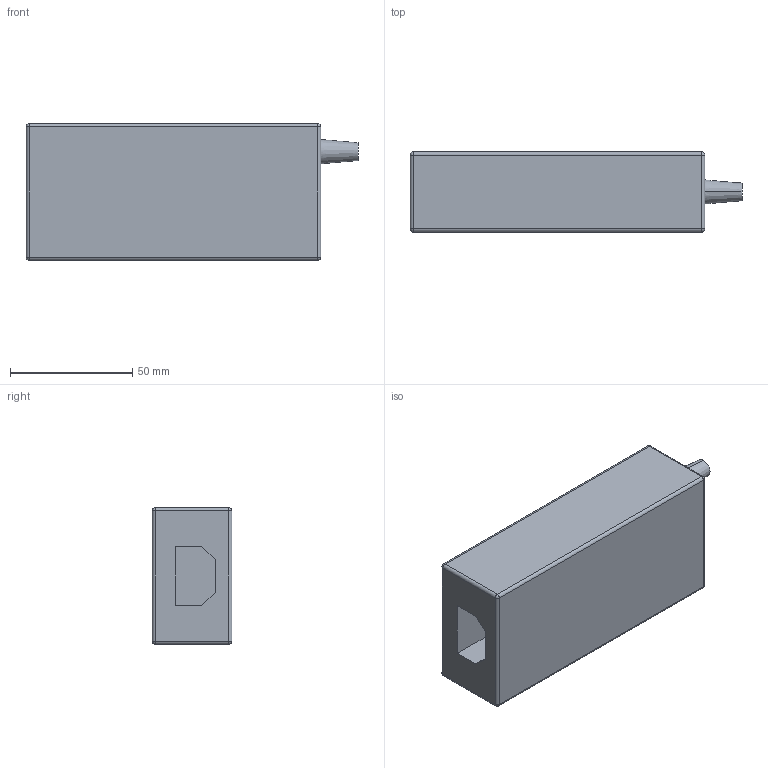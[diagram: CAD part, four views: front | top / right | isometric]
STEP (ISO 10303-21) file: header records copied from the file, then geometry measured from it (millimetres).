
FILE_DESCRIPTION (( 'STEP AP214' ), '1' );
FILE_NAME ('PowerBrick.STEP', '2015-01-27T00:42:02', ( '' ), ( '' ), 'SwSTEP 2.0', 'SolidWorks 2014', '' );
FILE_SCHEMA (( 'AUTOMOTIVE_DESIGN' ));
Length unit declared in the file: inch
Products named in the file (1): PowerBrick
Bounding box: 135.89 x 32.7 x 55.88 mm (x, y, z)
Volume: 214257.1 mm3; surface area: 26358.5 mm2
Topology: 1 solids, 1 shells, 36 faces, 80 edges, 40 vertices
Faces by surface type: plane 14, cylinder 12, sphere 8, cone 2
Entity records: 952 total; most frequent: DIRECTION 174, CARTESIAN_POINT 149, ORIENTED_EDGE 144, EDGE_CURVE 72, AXIS2_PLACEMENT_3D 65, VECTOR 44, LINE 44, VERTEX_POINT 40
